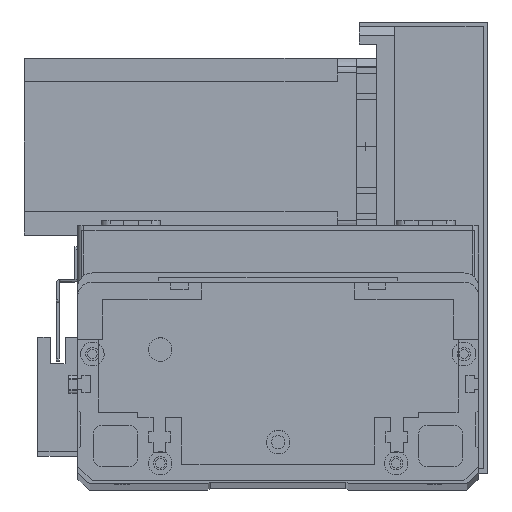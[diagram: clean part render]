
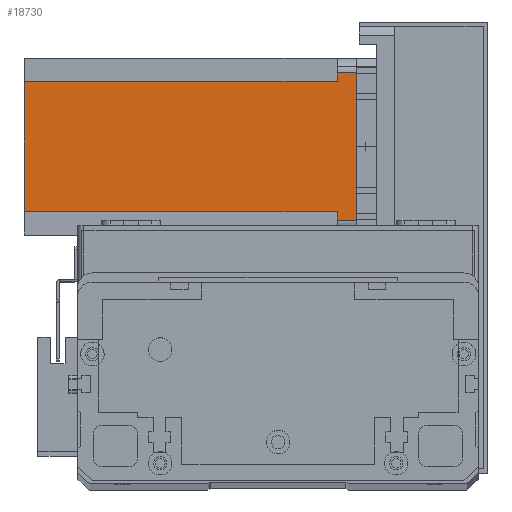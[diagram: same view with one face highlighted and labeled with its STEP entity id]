
A CAD part, top view. The second image highlights one B-rep face of the part: STEP entity #18730.
In plain terms, the highlighted planar face has unit normal (0, 0, 1) as drawn and (0, 1, 0) by its records, which use the part's own axes.
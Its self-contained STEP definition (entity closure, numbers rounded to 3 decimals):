
#215 = VERTEX_POINT ( 'NONE', #15704 ) ;
#237 = CARTESIAN_POINT ( 'NONE',  ( 5., 60., 0. ) ) ;
#332 = DIRECTION ( 'NONE',  ( -1., 0., 0. ) ) ;
#407 = DIRECTION ( 'NONE',  ( 0., 1., 0. ) ) ;
#658 = CARTESIAN_POINT ( 'NONE',  ( 8., 60., -6.5 ) ) ;
#979 = CARTESIAN_POINT ( 'NONE',  ( 55., 60., -112.5 ) ) ;
#1218 = VERTEX_POINT ( 'NONE', #237 ) ;
#1239 = VECTOR ( 'NONE', #24163, 1000. ) ;
#1558 = VECTOR ( 'NONE', #3818, 1000. ) ;
#3016 = VERTEX_POINT ( 'NONE', #20044 ) ;
#3082 = DIRECTION ( 'NONE',  ( 0., 0., -1. ) ) ;
#3818 = DIRECTION ( 'NONE',  ( 0., 0., 1. ) ) ;
#4000 = ORIENTED_EDGE ( 'NONE', *, *, #23251, .T. ) ;
#4104 = VERTEX_POINT ( 'NONE', #20554 ) ;
#4259 = ORIENTED_EDGE ( 'NONE', *, *, #17033, .F. ) ;
#4564 = VECTOR ( 'NONE', #23628, 1000. ) ;
#5155 = ORIENTED_EDGE ( 'NONE', *, *, #23571, .T. ) ;
#5162 = LINE ( 'NONE', #27609, #10694 ) ;
#5412 = CARTESIAN_POINT ( 'NONE',  ( 8., 60., -112.5 ) ) ;
#6641 = EDGE_CURVE ( 'NONE', #4104, #14220, #25530, .T. ) ;
#6652 = CARTESIAN_POINT ( 'NONE',  ( 5., 60., -6.5 ) ) ;
#7985 = VECTOR ( 'NONE', #15961, 1000. ) ;
#8340 = CARTESIAN_POINT ( 'NONE',  ( 52., 60., -112.5 ) ) ;
#8704 = LINE ( 'NONE', #16095, #7985 ) ;
#9830 = ORIENTED_EDGE ( 'NONE', *, *, #16374, .T. ) ;
#10511 = DIRECTION ( 'NONE',  ( 0., 0., -1. ) ) ;
#10694 = VECTOR ( 'NONE', #332, 1000. ) ;
#11139 = LINE ( 'NONE', #5412, #28257 ) ;
#11905 = AXIS2_PLACEMENT_3D ( 'NONE', #14347, #407, #16591 ) ;
#12154 = VERTEX_POINT ( 'NONE', #27435 ) ;
#13608 = LINE ( 'NONE', #8340, #1239 ) ;
#14220 = VERTEX_POINT ( 'NONE', #28644 ) ;
#14347 = CARTESIAN_POINT ( 'NONE',  ( 0., 60., -112.5 ) ) ;
#14942 = LINE ( 'NONE', #979, #15645 ) ;
#15084 = EDGE_CURVE ( 'NONE', #12154, #1218, #8704, .T. ) ;
#15645 = VECTOR ( 'NONE', #10511, 1000. ) ;
#15704 = CARTESIAN_POINT ( 'NONE',  ( 8., 60., -6.5 ) ) ;
#15961 = DIRECTION ( 'NONE',  ( -1., 0., 0. ) ) ;
#16095 = CARTESIAN_POINT ( 'NONE',  ( 0., 60., 0. ) ) ;
#16374 = EDGE_CURVE ( 'NONE', #215, #19178, #23538, .T. ) ;
#16591 = DIRECTION ( 'NONE',  ( 0., 0., 1. ) ) ;
#16826 = CARTESIAN_POINT ( 'NONE',  ( 52., 60., -6.5 ) ) ;
#17033 = EDGE_CURVE ( 'NONE', #215, #21389, #11139, .T. ) ;
#17188 = EDGE_CURVE ( 'NONE', #3016, #4104, #13608, .T. ) ;
#17229 = DIRECTION ( 'NONE',  ( 1., 0., 0. ) ) ;
#18266 = EDGE_CURVE ( 'NONE', #12154, #14220, #14942, .T. ) ;
#18730 = ADVANCED_FACE ( 'NONE', ( #29133 ), #27687, .T. ) ;
#19178 = VERTEX_POINT ( 'NONE', #6652 ) ;
#19207 = LINE ( 'NONE', #19897, #1558 ) ;
#19614 = VECTOR ( 'NONE', #17229, 1000. ) ;
#19897 = CARTESIAN_POINT ( 'NONE',  ( 5., 60., -112.5 ) ) ;
#20044 = CARTESIAN_POINT ( 'NONE',  ( 52., 60., -112.5 ) ) ;
#20408 = ORIENTED_EDGE ( 'NONE', *, *, #6641, .F. ) ;
#20554 = CARTESIAN_POINT ( 'NONE',  ( 52., 60., -6.5 ) ) ;
#21389 = VERTEX_POINT ( 'NONE', #24028 ) ;
#21885 = EDGE_LOOP ( 'NONE', ( #28403, #28535, #20408, #27000, #5155, #4259, #9830, #4000 ) ) ;
#23251 = EDGE_CURVE ( 'NONE', #19178, #1218, #19207, .T. ) ;
#23538 = LINE ( 'NONE', #658, #4564 ) ;
#23571 = EDGE_CURVE ( 'NONE', #3016, #21389, #5162, .T. ) ;
#23628 = DIRECTION ( 'NONE',  ( -1., 0., 0. ) ) ;
#24028 = CARTESIAN_POINT ( 'NONE',  ( 8., 60., -112.5 ) ) ;
#24163 = DIRECTION ( 'NONE',  ( 0., 0., 1. ) ) ;
#25530 = LINE ( 'NONE', #16826, #19614 ) ;
#27000 = ORIENTED_EDGE ( 'NONE', *, *, #17188, .F. ) ;
#27435 = CARTESIAN_POINT ( 'NONE',  ( 55., 60., 0. ) ) ;
#27609 = CARTESIAN_POINT ( 'NONE',  ( 0., 60., -112.5 ) ) ;
#27687 = PLANE ( 'NONE',  #11905 ) ;
#28257 = VECTOR ( 'NONE', #3082, 1000. ) ;
#28403 = ORIENTED_EDGE ( 'NONE', *, *, #15084, .F. ) ;
#28535 = ORIENTED_EDGE ( 'NONE', *, *, #18266, .T. ) ;
#28644 = CARTESIAN_POINT ( 'NONE',  ( 55., 60., -6.5 ) ) ;
#29133 = FACE_OUTER_BOUND ( 'NONE', #21885, .T. ) ;
